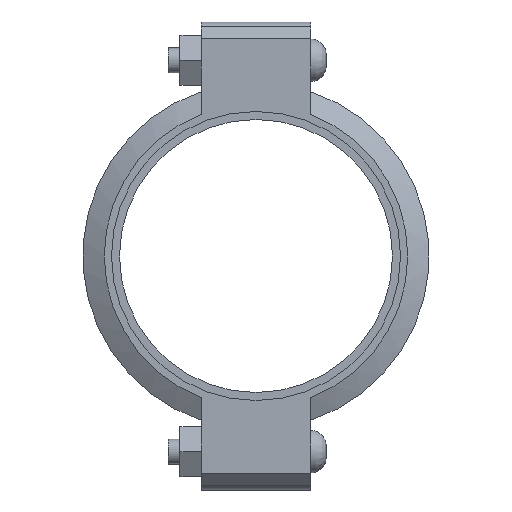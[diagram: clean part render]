
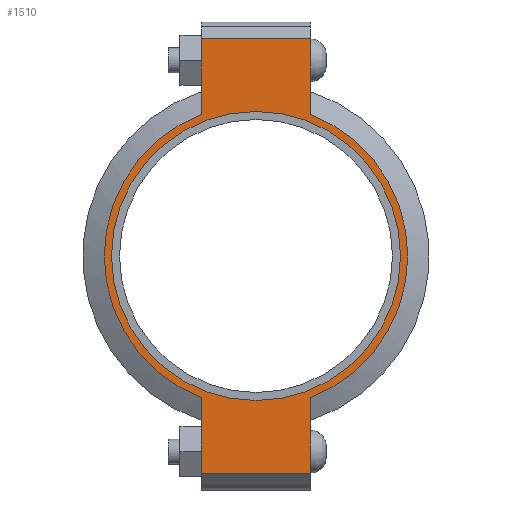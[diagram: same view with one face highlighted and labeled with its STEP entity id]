
A CAD part, left-side view. The second image highlights one B-rep face of the part: STEP entity #1510.
In plain terms, the highlighted planar face has unit normal (-1, 0, 0) as drawn and (0, 0, 1) by its records, which use the part's own axes.
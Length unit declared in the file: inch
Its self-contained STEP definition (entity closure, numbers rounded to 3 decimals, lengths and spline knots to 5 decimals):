
#134=LINE('',#2626,#227);
#142=LINE('',#2662,#235);
#149=LINE('',#2683,#242);
#158=LINE('',#2715,#251);
#159=LINE('',#2719,#252);
#160=LINE('',#2721,#253);
#227=VECTOR('',#2146,0.3937);
#235=VECTOR('',#2162,0.3937);
#242=VECTOR('',#2181,0.3937);
#251=VECTOR('',#2206,0.3937);
#252=VECTOR('',#2211,0.3937);
#253=VECTOR('',#2212,0.3937);
#309=FACE_BOUND('',#487,.T.);
#381=FACE_OUTER_BOUND('',#486,.T.);
#486=EDGE_LOOP('',(#1251,#1252,#1253,#1254,#1255,#1256,#1257,#1258));
#487=EDGE_LOOP('',(#1259));
#559=CIRCLE('',#1720,4.3125);
#585=CIRCLE('',#1779,4.53);
#586=CIRCLE('',#1780,4.53);
#651=VERTEX_POINT('',#2442);
#694=VERTEX_POINT('',#2623);
#695=VERTEX_POINT('',#2625);
#706=VERTEX_POINT('',#2657);
#707=VERTEX_POINT('',#2661);
#714=VERTEX_POINT('',#2680);
#715=VERTEX_POINT('',#2682);
#725=VERTEX_POINT('',#2718);
#726=VERTEX_POINT('',#2720);
#807=EDGE_CURVE('',#651,#651,#559,.T.);
#868=EDGE_CURVE('',#695,#694,#134,.T.);
#882=EDGE_CURVE('',#707,#706,#142,.T.);
#892=EDGE_CURVE('',#715,#714,#149,.T.);
#907=EDGE_CURVE('',#707,#694,#158,.T.);
#908=EDGE_CURVE('',#706,#715,#585,.T.);
#909=EDGE_CURVE('',#725,#714,#159,.T.);
#910=EDGE_CURVE('',#725,#726,#160,.T.);
#911=EDGE_CURVE('',#726,#695,#586,.T.);
#1251=ORIENTED_EDGE('',*,*,#907,.F.);
#1252=ORIENTED_EDGE('',*,*,#882,.T.);
#1253=ORIENTED_EDGE('',*,*,#908,.T.);
#1254=ORIENTED_EDGE('',*,*,#892,.T.);
#1255=ORIENTED_EDGE('',*,*,#909,.F.);
#1256=ORIENTED_EDGE('',*,*,#910,.T.);
#1257=ORIENTED_EDGE('',*,*,#911,.T.);
#1258=ORIENTED_EDGE('',*,*,#868,.T.);
#1259=ORIENTED_EDGE('',*,*,#807,.T.);
#1352=PLANE('',#1778);
#1510=ADVANCED_FACE('',(#381,#309),#1352,.T.);
#1720=AXIS2_PLACEMENT_3D('',#2444,#2022,#2023);
#1778=AXIS2_PLACEMENT_3D('',#2716,#2207,#2208);
#1779=AXIS2_PLACEMENT_3D('',#2717,#2209,#2210);
#1780=AXIS2_PLACEMENT_3D('',#2722,#2213,#2214);
#2022=DIRECTION('center_axis',(0.,0.,-1.));
#2023=DIRECTION('ref_axis',(-1.,0.,0.));
#2146=DIRECTION('',(-1.,0.,0.));
#2162=DIRECTION('',(1.,0.,0.));
#2181=DIRECTION('',(1.,0.,0.));
#2206=DIRECTION('',(0.,1.,0.));
#2207=DIRECTION('center_axis',(0.,0.,1.));
#2208=DIRECTION('ref_axis',(1.,0.,0.));
#2209=DIRECTION('center_axis',(0.,0.,1.));
#2210=DIRECTION('ref_axis',(-1.,0.,0.));
#2211=DIRECTION('',(0.,-1.,0.));
#2212=DIRECTION('',(-1.,0.,0.));
#2213=DIRECTION('center_axis',(0.,0.,1.));
#2214=DIRECTION('ref_axis',(-1.,0.,0.));
#2442=CARTESIAN_POINT('',(4.3125,0.,1.16));
#2444=CARTESIAN_POINT('Origin',(0.,0.,1.16));
#2623=CARTESIAN_POINT('',(-6.485,1.63,1.16));
#2625=CARTESIAN_POINT('',(-4.22658,1.63,1.16));
#2626=CARTESIAN_POINT('',(-6.985,1.63,1.16));
#2657=CARTESIAN_POINT('',(-4.22658,-1.63,1.16));
#2661=CARTESIAN_POINT('',(-6.485,-1.63,1.16));
#2662=CARTESIAN_POINT('',(6.985,-1.63,1.16));
#2680=CARTESIAN_POINT('',(6.485,-1.63,1.16));
#2682=CARTESIAN_POINT('',(4.22658,-1.63,1.16));
#2683=CARTESIAN_POINT('',(6.985,-1.63,1.16));
#2715=CARTESIAN_POINT('',(-6.485,0.815,1.16));
#2716=CARTESIAN_POINT('Origin',(0.,0.,
1.16));
#2717=CARTESIAN_POINT('Origin',(0.,0.,1.16));
#2718=CARTESIAN_POINT('',(6.485,1.63,1.16));
#2719=CARTESIAN_POINT('',(6.485,-0.815,1.16));
#2720=CARTESIAN_POINT('',(4.22658,1.63,1.16));
#2721=CARTESIAN_POINT('',(-6.985,1.63,1.16));
#2722=CARTESIAN_POINT('Origin',(0.,0.,1.16));
